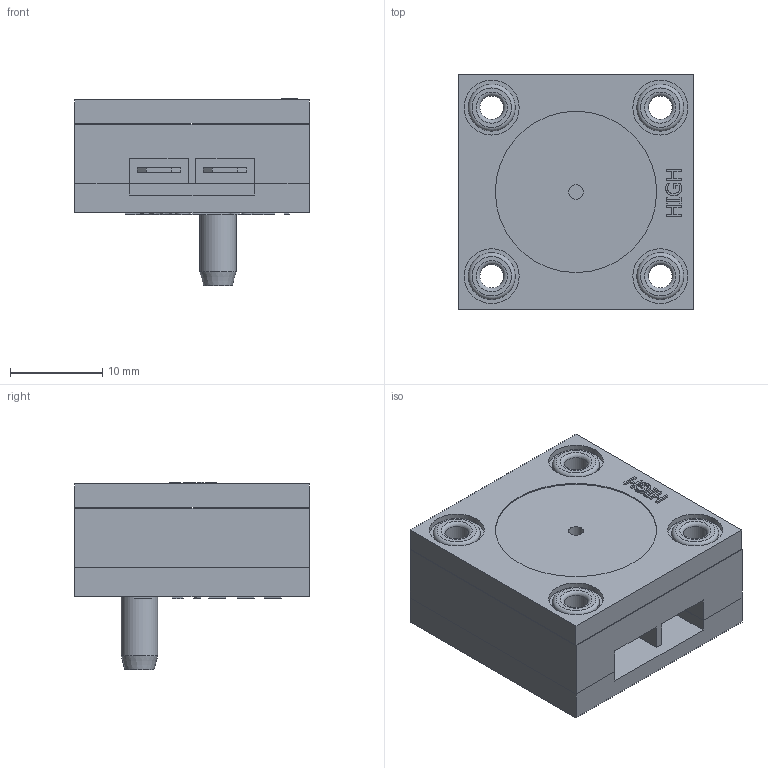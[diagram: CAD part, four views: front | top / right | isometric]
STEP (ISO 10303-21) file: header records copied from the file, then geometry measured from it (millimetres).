
FILE_DESCRIPTION((''),'2;1');
FILE_NAME('G:\DRAWINGS\SWITCH\INVENTOR DRAWINGS\WORLD MAGNETICS SWITCH\WM SALES STP FILES\726X.stp','2011-05-18T15:22:08',('dale'),(''),'Autodesk Inventor 2009','Autodesk Inventor 2009','');
FILE_SCHEMA(('AUTOMOTIVE_DESIGN { 1 0 10303 214 1 1 1 1 }'));
Length unit declared in the file: inch
Products named in the file (7): 726X; 60457-STP; 60392-STP; 60458-STP; 60837-STP; 60456; 60694
Assembly tree (10 placements, depth 2):
  726X
    60457-STP
    60392-STP  x2
    60458-STP
    60837-STP
    60456  x4
    60694
Bounding box: 25.4 x 25.4 x 20.32 mm (x, y, z)
Volume: 7062.3 mm3; surface area: 7328.6 mm2
Topology: 14 solids, 14 shells, 624 faces, 1567 edges, 1037 vertices
Faces by surface type: plane 382, bspline 167, cylinder 55, torus 16, cone 2, sphere 2
Full cylindrical faces by diameter (mm): 1.041 x1, 1.194 x1, 1.346 x2, 1.575 x2, 1.778 x2, 2.083 x1, 2.565 x4, 3.073 x4, 3.175 x1, 3.226 x4, 3.277 x8, 3.962 x1, 4.572 x4, 4.826 x4, 5.08 x4, 5.537 x1, 5.715 x1, 5.944 x8, 17.45 x1
Entity records: 18438 total; most frequent: CARTESIAN_POINT 5674, ORIENTED_EDGE 2776, DIRECTION 2016, EDGE_CURVE 1388, VECTOR 992, LINE 992, VERTEX_POINT 954, EDGE_LOOP 692
